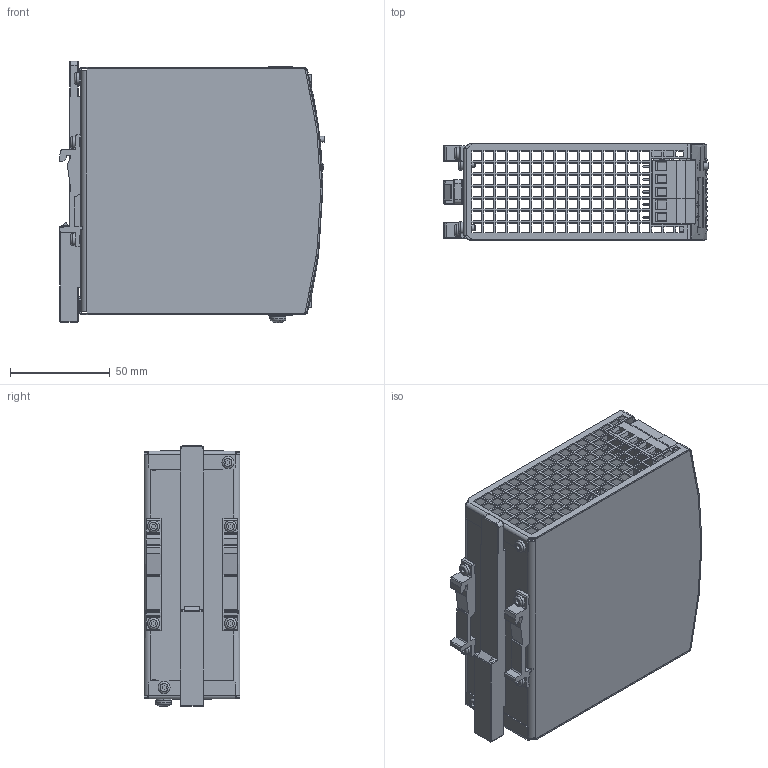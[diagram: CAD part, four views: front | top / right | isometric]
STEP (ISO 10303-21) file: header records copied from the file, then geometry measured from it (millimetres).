
FILE_DESCRIPTION(/* description */ (''),/* implementation_level */ '2;1');
FILE_NAME(/* name */ 'C:\Vault-Work\Vault\Designs\MARKETING\Internet\400-449\410.00\md3_CP10_248.stp',/* time_stamp */ '2021-01-25T22:08:20+01:00',/* author */ ('rahns'),/* organization */ (''),/* preprocessor_version */ 'ST-DEVELOPER v18.1',/* originating_system */ 'Autodesk Inventor 2020',/* authorisation */ '');
FILE_SCHEMA (('AUTOMOTIVE_DESIGN { 1 0 10303 214 3 1 1 }'));
Products named in the file (16): 410.18; HOUSING BODY 410.18; HOUSING COVER 410.18; MKT-DRUCK_A-C3; MKT_SLIDER; MKT_T HOLDER1; MKT_SCREW 3x6; MKT_SCREW 4x8; MKT_WASHER 4; MKT_LP3BK-D2; MKT_LP2BK-D2; Metz_Connect_SR21502HBNC; RA-1K0-93; MKT_LED_DISPLAY; FRONTFOIL 410.18; SCREEN 410.18
Assembly tree (25 placements, depth 2):
  410.18
    HOUSING BODY 410.18
    HOUSING COVER 410.18
    MKT-DRUCK_A-C3
    MKT_SLIDER
    MKT_SCREW 3x6  x6
    MKT_T HOLDER1  x2
    MKT_SCREW 4x8
    MKT_WASHER 4
    MKT_LP3BK-D2  x2
    MKT_LP2BK-D2
    Metz_Connect_SR21502HBNC  x4
    RA-1K0-93
    MKT_LED_DISPLAY
    FRONTFOIL 410.18
    SCREEN 410.18
Bounding box: 132.38 x 48 x 130.77 mm (x, y, z)
Volume: 91378.7 mm3; surface area: 124443.2 mm2
Topology: 32 solids, 32 shells, 3603 faces, 9989 edges, 6650 vertices
Faces by surface type: plane 2715, bspline 414, cylinder 406, cone 38, torus 21, sphere 9
Full cylindrical faces by diameter (mm): 0.05 x2, 0.3 x16, 0.5 x3, 0.9 x2, 1.5 x1, 2.45 x6, 2.7 x1, 3 x6, 3.05 x1, 3.1 x4, 3.2 x1, 3.44 x1, 3.5 x4, 3.621 x1, 3.8 x1, 4 x1, 4.7 x1, 5.15 x8, 5.5 x2, 6 x6
Entity records: 115952 total; most frequent: CARTESIAN_POINT 36265, ORIENTED_EDGE 17186, DIRECTION 14221, EDGE_CURVE 8593, LINE 6511, VECTOR 6511, VERTEX_POINT 5722, AXIS2_PLACEMENT_3D 3855
